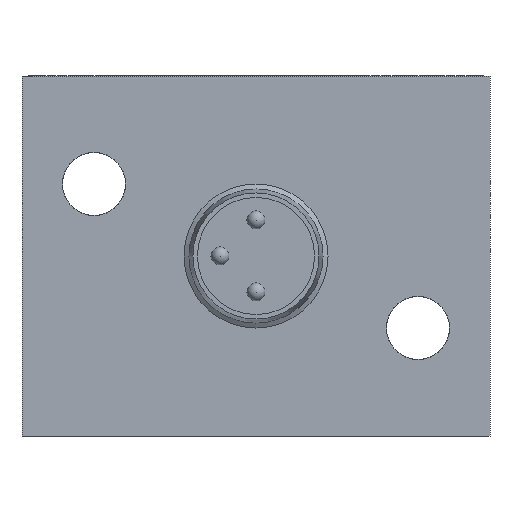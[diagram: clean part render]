
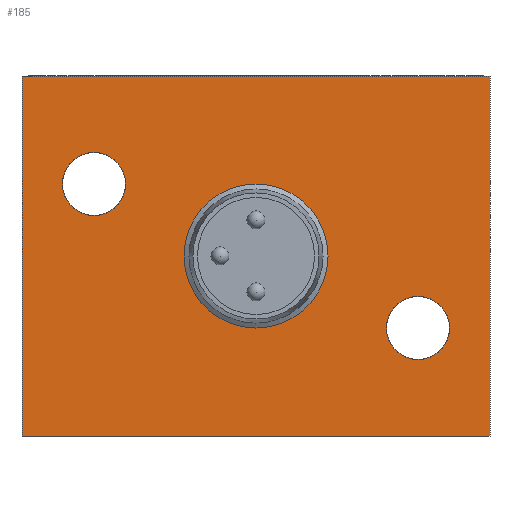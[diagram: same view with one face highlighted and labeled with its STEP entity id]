
A CAD part, front view. The second image highlights one B-rep face of the part: STEP entity #185.
In plain terms, the highlighted planar face has unit normal (0, -1, 0).
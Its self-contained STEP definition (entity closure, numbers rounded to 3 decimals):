
#44 = VERTEX_POINT('',#45);
#45 = CARTESIAN_POINT('',(-13.,0.,10.));
#62 = VERTEX_POINT('',#63);
#63 = CARTESIAN_POINT('',(-13.,0.,-10.));
#69 = EDGE_CURVE('',#44,#62,#70,.T.);
#70 = LINE('',#71,#72);
#71 = CARTESIAN_POINT('',(-13.,0.,10.));
#72 = VECTOR('',#73,1.);
#73 = DIRECTION('',(0.,0.,-1.));
#84 = VERTEX_POINT('',#85);
#85 = CARTESIAN_POINT('',(13.,0.,10.));
#100 = EDGE_CURVE('',#84,#44,#101,.T.);
#101 = LINE('',#102,#103);
#102 = CARTESIAN_POINT('',(13.,0.,10.));
#103 = VECTOR('',#104,1.);
#104 = DIRECTION('',(-1.,0.,0.));
#146 = VERTEX_POINT('',#147);
#147 = CARTESIAN_POINT('',(13.,0.,-10.));
#153 = EDGE_CURVE('',#62,#146,#154,.T.);
#154 = LINE('',#155,#156);
#155 = CARTESIAN_POINT('',(-13.,0.,-10.));
#156 = VECTOR('',#157,1.);
#157 = DIRECTION('',(1.,0.,0.));
#185 = ADVANCED_FACE('',(#186,#197,#208),#219,.F.);
#186 = FACE_BOUND('',#187,.F.);
#187 = EDGE_LOOP('',(#188,#189,#190,#196));
#188 = ORIENTED_EDGE('',*,*,#69,.F.);
#189 = ORIENTED_EDGE('',*,*,#100,.F.);
#190 = ORIENTED_EDGE('',*,*,#191,.F.);
#191 = EDGE_CURVE('',#146,#84,#192,.T.);
#192 = LINE('',#193,#194);
#193 = CARTESIAN_POINT('',(13.,0.,-10.));
#194 = VECTOR('',#195,1.);
#195 = DIRECTION('',(0.,0.,1.));
#196 = ORIENTED_EDGE('',*,*,#153,.F.);
#197 = FACE_BOUND('',#198,.F.);
#198 = EDGE_LOOP('',(#199));
#199 = ORIENTED_EDGE('',*,*,#200,.T.);
#200 = EDGE_CURVE('',#201,#201,#203,.T.);
#201 = VERTEX_POINT('',#202);
#202 = CARTESIAN_POINT('',(-7.25,0.,4.));
#203 = CIRCLE('',#204,1.75);
#204 = AXIS2_PLACEMENT_3D('',#205,#206,#207);
#205 = CARTESIAN_POINT('',(-9.,0.,4.));
#206 = DIRECTION('',(0.,-1.,0.));
#207 = DIRECTION('',(1.,0.,0.));
#208 = FACE_BOUND('',#209,.F.);
#209 = EDGE_LOOP('',(#210));
#210 = ORIENTED_EDGE('',*,*,#211,.T.);
#211 = EDGE_CURVE('',#212,#212,#214,.T.);
#212 = VERTEX_POINT('',#213);
#213 = CARTESIAN_POINT('',(10.75,0.,-4.));
#214 = CIRCLE('',#215,1.75);
#215 = AXIS2_PLACEMENT_3D('',#216,#217,#218);
#216 = CARTESIAN_POINT('',(9.,0.,-4.));
#217 = DIRECTION('',(0.,-1.,0.));
#218 = DIRECTION('',(1.,0.,0.));
#219 = PLANE('',#220);
#220 = AXIS2_PLACEMENT_3D('',#221,#222,#223);
#221 = CARTESIAN_POINT('',(0.,0.,0.));
#222 = DIRECTION('',(0.,1.,0.));
#223 = DIRECTION('',(0.,0.,1.));
